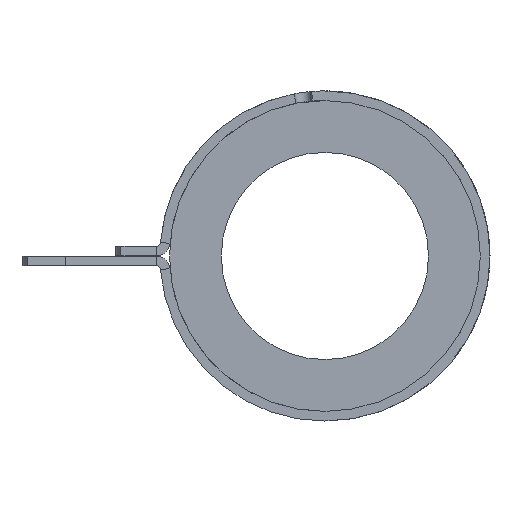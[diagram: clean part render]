
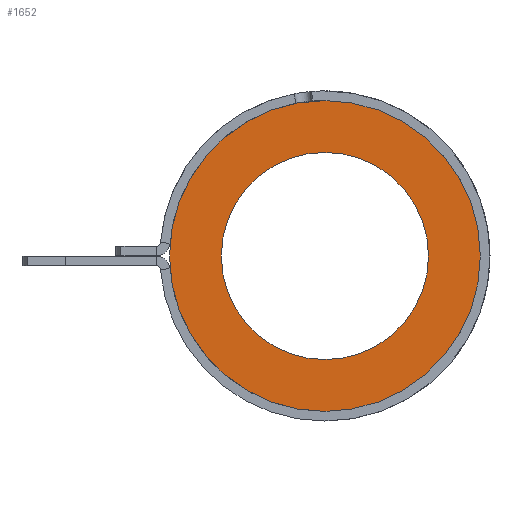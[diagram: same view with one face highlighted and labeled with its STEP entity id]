
A CAD part, left-side view. The second image highlights one B-rep face of the part: STEP entity #1652.
In plain terms, the highlighted planar face has unit normal (-1, 0, 0).
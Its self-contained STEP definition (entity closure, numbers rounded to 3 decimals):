
#37 = CARTESIAN_POINT ( 'NONE',  ( -149.225, 0., 0. ) ) ;
#38 = DIRECTION ( 'NONE',  ( 1., 0., 0. ) ) ;
#39 = DIRECTION ( 'NONE',  ( 0., 0., -1. ) ) ;
#47 = CARTESIAN_POINT ( 'NONE',  ( -149.225, 0., 0. ) ) ;
#48 = DIRECTION ( 'NONE',  ( 1., 0., 0. ) ) ;
#49 = DIRECTION ( 'NONE',  ( 0., 0., -1. ) ) ;
#260 = EDGE_CURVE ( 'NONE', #1698, #1228, #918, .T. ) ;
#264 = EDGE_CURVE ( 'NONE', #1668, #1663, #922, .T. ) ;
#270 = EDGE_CURVE ( 'NONE', #1663, #1668, #929, .T. ) ;
#272 = EDGE_CURVE ( 'NONE', #1228, #1698, #930, .T. ) ;
#283 = AXIS2_PLACEMENT_3D ( 'NONE', #1580, #1585, #1586 ) ;
#312 = AXIS2_PLACEMENT_3D ( 'NONE', #1615, #1616, #1617 ) ;
#313 = AXIS2_PLACEMENT_3D ( 'NONE', #1610, #1611, #1612 ) ;
#316 = AXIS2_PLACEMENT_3D ( 'NONE', #47, #48, #49 ) ;
#318 = AXIS2_PLACEMENT_3D ( 'NONE', #37, #38, #39 ) ;
#448 = CARTESIAN_POINT ( 'NONE',  ( -149.225, 0., 14.288 ) ) ;
#450 = CARTESIAN_POINT ( 'NONE',  ( -149.225, 0., -14.288 ) ) ;
#579 = CARTESIAN_POINT ( 'NONE',  ( -149.225, 0., 9.525 ) ) ;
#762 = EDGE_LOOP ( 'NONE', ( #815, #816 ) ) ;
#763 = EDGE_LOOP ( 'NONE', ( #778, #814 ) ) ;
#778 = ORIENTED_EDGE ( 'NONE', *, *, #270, .F. ) ;
#814 = ORIENTED_EDGE ( 'NONE', *, *, #264, .F. ) ;
#815 = ORIENTED_EDGE ( 'NONE', *, *, #260, .T. ) ;
#816 = ORIENTED_EDGE ( 'NONE', *, *, #272, .T. ) ;
#918 = CIRCLE ( 'NONE', #318, 9.525 ) ;
#922 = CIRCLE ( 'NONE', #316, 14.288 ) ;
#929 = CIRCLE ( 'NONE', #313, 14.288 ) ;
#930 = CIRCLE ( 'NONE', #312, 9.525 ) ;
#1228 = VERTEX_POINT ( 'NONE', #1394 ) ;
#1344 = FACE_OUTER_BOUND ( 'NONE', #763, .T. ) ;
#1352 = FACE_BOUND ( 'NONE', #762, .T. ) ;
#1394 = CARTESIAN_POINT ( 'NONE',  ( -149.225, 0., -9.525 ) ) ;
#1578 = PLANE ( 'NONE',  #283 ) ;
#1580 = CARTESIAN_POINT ( 'NONE',  ( -149.225, 0., 0. ) ) ;
#1585 = DIRECTION ( 'NONE',  ( 1., 0., 0. ) ) ;
#1586 = DIRECTION ( 'NONE',  ( 0., 0., -1. ) ) ;
#1610 = CARTESIAN_POINT ( 'NONE',  ( -149.225, 0., 0. ) ) ;
#1611 = DIRECTION ( 'NONE',  ( 1., 0., 0. ) ) ;
#1612 = DIRECTION ( 'NONE',  ( 0., 0., -1. ) ) ;
#1615 = CARTESIAN_POINT ( 'NONE',  ( -149.225, 0., 0. ) ) ;
#1616 = DIRECTION ( 'NONE',  ( 1., 0., 0. ) ) ;
#1617 = DIRECTION ( 'NONE',  ( 0., 0., -1. ) ) ;
#1652 = ADVANCED_FACE ( 'NONE', ( #1344, #1352 ), #1578, .F. ) ;
#1663 = VERTEX_POINT ( 'NONE', #448 ) ;
#1668 = VERTEX_POINT ( 'NONE', #450 ) ;
#1698 = VERTEX_POINT ( 'NONE', #579 ) ;
